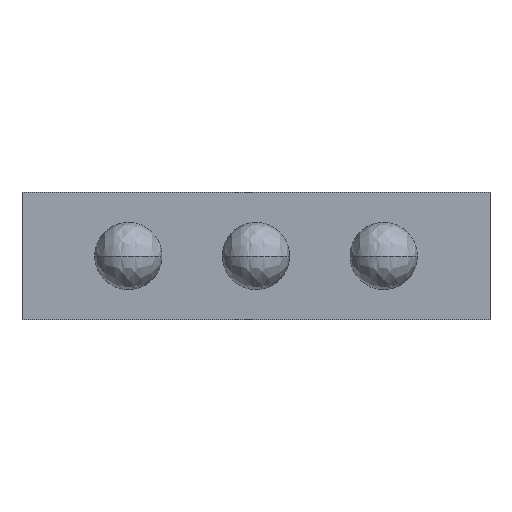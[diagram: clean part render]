
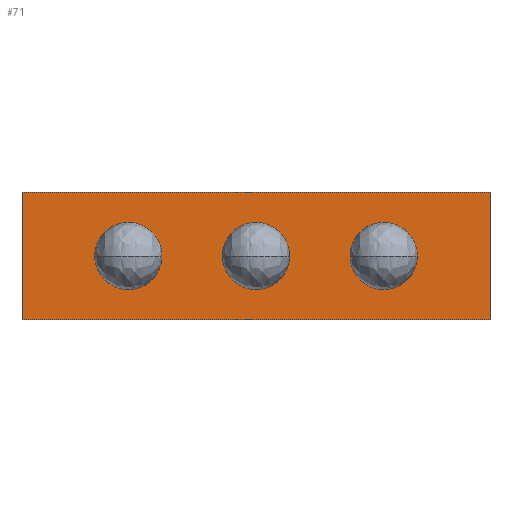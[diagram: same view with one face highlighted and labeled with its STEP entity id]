
A CAD part, front view. The second image highlights one B-rep face of the part: STEP entity #71.
In plain terms, the highlighted planar face has unit normal (0, -1, 0).
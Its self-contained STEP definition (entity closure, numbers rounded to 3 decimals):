
#22=FACE_BOUND('',#338,.T.);
#23=FACE_BOUND('',#339,.T.);
#24=FACE_BOUND('',#340,.T.);
#71=ADVANCED_FACE('',(#204,#22,#23,#24),#1915,.T.);
#204=FACE_OUTER_BOUND('',#337,.T.);
#337=EDGE_LOOP('',(#557,#558,#559,#560));
#338=EDGE_LOOP('',(#561,#562));
#339=EDGE_LOOP('',(#563,#564));
#340=EDGE_LOOP('',(#565,#566));
#557=ORIENTED_EDGE('',*,*,#1138,.F.);
#558=ORIENTED_EDGE('',*,*,#1139,.F.);
#559=ORIENTED_EDGE('',*,*,#1140,.F.);
#560=ORIENTED_EDGE('',*,*,#1141,.F.);
#561=ORIENTED_EDGE('',*,*,#1123,.F.);
#562=ORIENTED_EDGE('',*,*,#1204,.F.);
#563=ORIENTED_EDGE('',*,*,#1202,.F.);
#564=ORIENTED_EDGE('',*,*,#1128,.F.);
#565=ORIENTED_EDGE('',*,*,#1206,.F.);
#566=ORIENTED_EDGE('',*,*,#1118,.F.);
#1118=EDGE_CURVE('',#1787,#1788,#1636,.T.);
#1123=EDGE_CURVE('',#1791,#1792,#1639,.T.);
#1128=EDGE_CURVE('',#1795,#1796,#1642,.T.);
#1138=EDGE_CURVE('',#1805,#1806,#1432,.T.);
#1139=EDGE_CURVE('',#1807,#1805,#1433,.T.);
#1140=EDGE_CURVE('',#1808,#1807,#1434,.T.);
#1141=EDGE_CURVE('',#1806,#1808,#1435,.T.);
#1202=EDGE_CURVE('',#1796,#1795,#1651,.T.);
#1204=EDGE_CURVE('',#1792,#1791,#1653,.T.);
#1206=EDGE_CURVE('',#1788,#1787,#1655,.T.);
#1432=B_SPLINE_CURVE_WITH_KNOTS('',1,(#3644,#3645),.UNSPECIFIED.,.F.,.F.,
(2,2),(-110.,0.),.UNSPECIFIED.);
#1433=B_SPLINE_CURVE_WITH_KNOTS('',1,(#3646,#3647),.UNSPECIFIED.,.F.,.F.,
(2,2),(0.,30.),.UNSPECIFIED.);
#1434=B_SPLINE_CURVE_WITH_KNOTS('',1,(#3648,#3649),.UNSPECIFIED.,.F.,.F.,
(2,2),(0.,110.),.UNSPECIFIED.);
#1435=B_SPLINE_CURVE_WITH_KNOTS('',1,(#3650,#3651),.UNSPECIFIED.,.F.,.F.,
(2,2),(-30.,0.),.UNSPECIFIED.);
#1636=(
BOUNDED_CURVE()
B_SPLINE_CURVE(2,(#3571,#3572,#3573,#3574,#3575),.UNSPECIFIED.,.F.,.F.)
B_SPLINE_CURVE_WITH_KNOTS((3,2,3),(0.,12.409,24.819),
 .UNSPECIFIED.)
CURVE()
GEOMETRIC_REPRESENTATION_ITEM()
RATIONAL_B_SPLINE_CURVE((1.,0.707,1.,0.707,1.))
REPRESENTATION_ITEM('')
);
#1639=(
BOUNDED_CURVE()
B_SPLINE_CURVE(2,(#3590,#3591,#3592,#3593,#3594),.UNSPECIFIED.,.F.,.F.)
B_SPLINE_CURVE_WITH_KNOTS((3,2,3),(0.,12.409,24.819),
 .UNSPECIFIED.)
CURVE()
GEOMETRIC_REPRESENTATION_ITEM()
RATIONAL_B_SPLINE_CURVE((1.,0.707,1.,0.707,1.))
REPRESENTATION_ITEM('')
);
#1642=(
BOUNDED_CURVE()
B_SPLINE_CURVE(2,(#3609,#3610,#3611,#3612,#3613),.UNSPECIFIED.,.F.,.F.)
B_SPLINE_CURVE_WITH_KNOTS((3,2,3),(0.,12.409,24.819),
 .UNSPECIFIED.)
CURVE()
GEOMETRIC_REPRESENTATION_ITEM()
RATIONAL_B_SPLINE_CURVE((1.,0.707,1.,0.707,1.))
REPRESENTATION_ITEM('')
);
#1651=(
BOUNDED_CURVE()
B_SPLINE_CURVE(2,(#3784,#3785,#3786,#3787,#3788),.UNSPECIFIED.,.F.,.F.)
B_SPLINE_CURVE_WITH_KNOTS((3,2,3),(0.,12.409,24.819),
 .UNSPECIFIED.)
CURVE()
GEOMETRIC_REPRESENTATION_ITEM()
RATIONAL_B_SPLINE_CURVE((1.,0.707,1.,0.707,1.))
REPRESENTATION_ITEM('')
);
#1653=(
BOUNDED_CURVE()
B_SPLINE_CURVE(2,(#3794,#3795,#3796,#3797,#3798),.UNSPECIFIED.,.F.,.F.)
B_SPLINE_CURVE_WITH_KNOTS((3,2,3),(0.,12.409,24.819),
 .UNSPECIFIED.)
CURVE()
GEOMETRIC_REPRESENTATION_ITEM()
RATIONAL_B_SPLINE_CURVE((1.,0.707,1.,0.707,1.))
REPRESENTATION_ITEM('')
);
#1655=(
BOUNDED_CURVE()
B_SPLINE_CURVE(2,(#3804,#3805,#3806,#3807,#3808),.UNSPECIFIED.,.F.,.F.)
B_SPLINE_CURVE_WITH_KNOTS((3,2,3),(0.,12.409,24.819),
 .UNSPECIFIED.)
CURVE()
GEOMETRIC_REPRESENTATION_ITEM()
RATIONAL_B_SPLINE_CURVE((1.,0.707,1.,0.707,1.))
REPRESENTATION_ITEM('')
);
#1787=VERTEX_POINT('',#3305);
#1788=VERTEX_POINT('',#3306);
#1791=VERTEX_POINT('',#3309);
#1792=VERTEX_POINT('',#3310);
#1795=VERTEX_POINT('',#3313);
#1796=VERTEX_POINT('',#3314);
#1805=VERTEX_POINT('',#3323);
#1806=VERTEX_POINT('',#3324);
#1807=VERTEX_POINT('',#3325);
#1808=VERTEX_POINT('',#3326);
#1915=PLANE('',#2136);
#2136=AXIS2_PLACEMENT_3D('',#2732,#2195,$);
#2195=DIRECTION('',(0.,-1.,0.));
#2732=CARTESIAN_POINT('',(66.001,0.1,35.001));
#3305=CARTESIAN_POINT('',(37.9,0.1,17.));
#3306=CARTESIAN_POINT('',(22.1,0.1,17.));
#3309=CARTESIAN_POINT('',(-22.1,0.1,17.));
#3310=CARTESIAN_POINT('',(-37.9,0.1,17.));
#3313=CARTESIAN_POINT('',(7.9,0.1,17.));
#3314=CARTESIAN_POINT('',(-7.9,0.1,17.));
#3323=CARTESIAN_POINT('',(55.,0.1,2.));
#3324=CARTESIAN_POINT('',(-55.,0.1,2.));
#3325=CARTESIAN_POINT('',(55.,0.1,32.));
#3326=CARTESIAN_POINT('',(-55.,0.1,32.));
#3571=CARTESIAN_POINT('',(37.9,0.1,17.));
#3572=CARTESIAN_POINT('',(37.9,0.1,24.9));
#3573=CARTESIAN_POINT('',(30.,0.1,24.9));
#3574=CARTESIAN_POINT('',(22.1,0.1,24.9));
#3575=CARTESIAN_POINT('',(22.1,0.1,17.));
#3590=CARTESIAN_POINT('',(-22.1,0.1,17.));
#3591=CARTESIAN_POINT('',(-22.1,0.1,24.9));
#3592=CARTESIAN_POINT('',(-30.,0.1,24.9));
#3593=CARTESIAN_POINT('',(-37.9,0.1,24.9));
#3594=CARTESIAN_POINT('',(-37.9,0.1,17.));
#3609=CARTESIAN_POINT('',(7.9,0.1,17.));
#3610=CARTESIAN_POINT('',(7.9,0.1,24.9));
#3611=CARTESIAN_POINT('',(0.,0.1,24.9));
#3612=CARTESIAN_POINT('',(-7.9,0.1,24.9));
#3613=CARTESIAN_POINT('',(-7.9,0.1,17.));
#3644=CARTESIAN_POINT('',(55.,0.1,2.));
#3645=CARTESIAN_POINT('',(-55.,0.1,2.));
#3646=CARTESIAN_POINT('',(55.,0.1,32.));
#3647=CARTESIAN_POINT('',(55.,0.1,2.));
#3648=CARTESIAN_POINT('',(-55.,0.1,32.));
#3649=CARTESIAN_POINT('',(55.,0.1,32.));
#3650=CARTESIAN_POINT('',(-55.,0.1,2.));
#3651=CARTESIAN_POINT('',(-55.,0.1,32.));
#3784=CARTESIAN_POINT('',(-7.9,0.1,17.));
#3785=CARTESIAN_POINT('',(-7.9,0.1,9.1));
#3786=CARTESIAN_POINT('',(0.,0.1,9.1));
#3787=CARTESIAN_POINT('',(7.9,0.1,9.1));
#3788=CARTESIAN_POINT('',(7.9,0.1,17.));
#3794=CARTESIAN_POINT('',(-37.9,0.1,17.));
#3795=CARTESIAN_POINT('',(-37.9,0.1,9.1));
#3796=CARTESIAN_POINT('',(-30.,0.1,9.1));
#3797=CARTESIAN_POINT('',(-22.1,0.1,9.1));
#3798=CARTESIAN_POINT('',(-22.1,0.1,17.));
#3804=CARTESIAN_POINT('',(22.1,0.1,17.));
#3805=CARTESIAN_POINT('',(22.1,0.1,9.1));
#3806=CARTESIAN_POINT('',(30.,0.1,9.1));
#3807=CARTESIAN_POINT('',(37.9,0.1,9.1));
#3808=CARTESIAN_POINT('',(37.9,0.1,17.));
